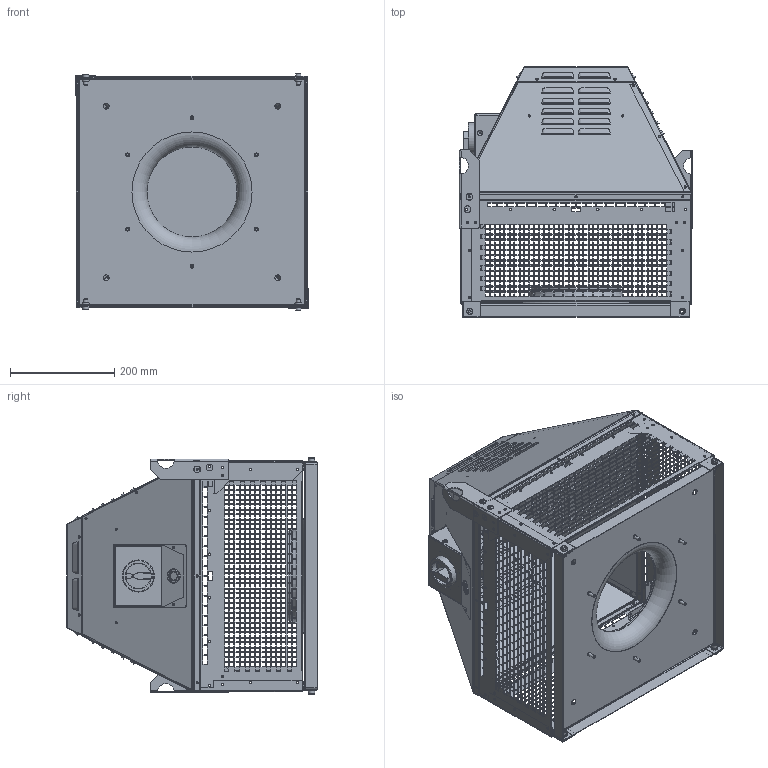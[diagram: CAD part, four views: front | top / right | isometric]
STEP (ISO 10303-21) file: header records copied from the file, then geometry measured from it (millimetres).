
FILE_DESCRIPTION (( 'STEP AP203' ), '1' );
FILE_NAME ('150695-00_DHN280D2F430_step.step', '2019-05-10T11:09:04', ( '' ), ( '' ), 'SwSTEP 2.0', 'SolidWorks 2017', '' );
FILE_SCHEMA (( 'CONFIG_CONTROL_DESIGN' ));
Products named in the file (1): 150695-00_DHN280D2F430_step
Bounding box: 449.3 x 481.47 x 456.3 mm (x, y, z)
Surface area: 2053060 mm2 (no closed solid volume)
Topology: 0 solids, 57 shells, 4061 faces, 17200 edges, 11468 vertices
Faces by surface type: plane 3440, cylinder 373, bspline 214, torus 22, cone 10, sphere 2
Full cylindrical faces by diameter (mm): 3.2 x12, 4.2 x82, 4.5 x74, 5.4 x3, 6 x10, 7.4 x6, 8 x1, 9 x4, 10 x2, 11 x4, 12 x4, 13 x8, 16 x2, 20 x2, 26 x1, 27.5 x1, 61 x1, 80 x1, 173 x1
Entity records: 207138 total; most frequent: CARTESIAN_POINT 68620, ORIENTED_EDGE 26253, DIRECTION 24565, EDGE_CURVE 16870, LINE 15231, VECTOR 15231, VERTEX_POINT 11466, EDGE_LOOP 7169
